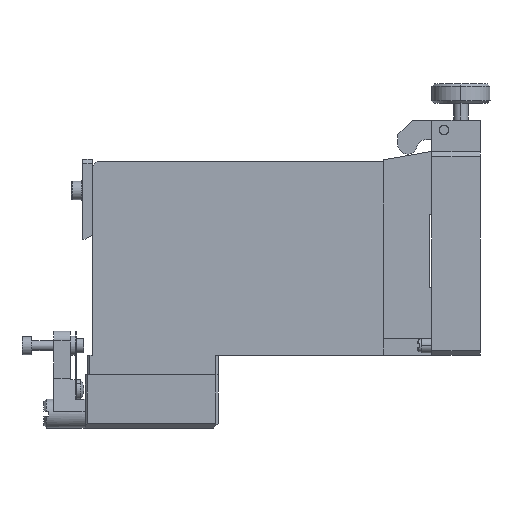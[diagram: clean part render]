
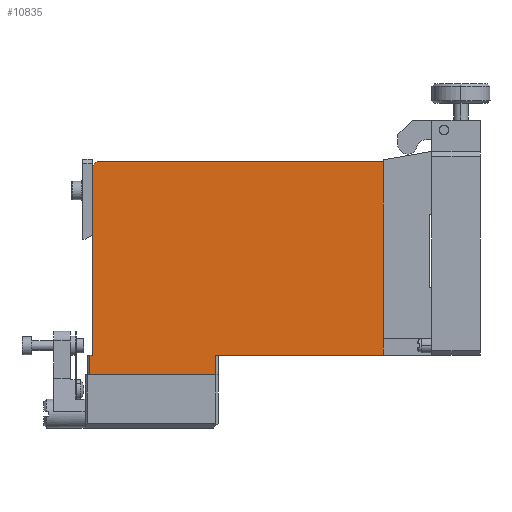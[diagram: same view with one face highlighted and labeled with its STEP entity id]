
A CAD part, left-side view. The second image highlights one B-rep face of the part: STEP entity #10835.
In plain terms, the highlighted planar face has unit normal (-1, 0, 0).
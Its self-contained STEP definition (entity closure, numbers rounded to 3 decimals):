
#168 = VERTEX_POINT ( 'NONE', #3923 ) ;
#234 = EDGE_CURVE ( 'NONE', #26488, #22378, #9065, .T. ) ;
#345 = DIRECTION ( 'NONE',  ( 0., 0., -1. ) ) ;
#522 = VECTOR ( 'NONE', #345, 1000. ) ;
#579 = VECTOR ( 'NONE', #24327, 1000. ) ;
#622 = DIRECTION ( 'NONE',  ( 0., 0., -1. ) ) ;
#818 = LINE ( 'NONE', #14189, #12302 ) ;
#899 = CARTESIAN_POINT ( 'NONE',  ( -30., 20., 8.25 ) ) ;
#953 = VECTOR ( 'NONE', #24574, 1000. ) ;
#1363 = ORIENTED_EDGE ( 'NONE', *, *, #20144, .F. ) ;
#1390 = VERTEX_POINT ( 'NONE', #16590 ) ;
#1466 = CARTESIAN_POINT ( 'NONE',  ( -30., 80.5, 0. ) ) ;
#1576 = CARTESIAN_POINT ( 'NONE',  ( -30., 80., 39. ) ) ;
#1665 = VERTEX_POINT ( 'NONE', #1466 ) ;
#1977 = VERTEX_POINT ( 'NONE', #16738 ) ;
#2141 = DIRECTION ( 'NONE',  ( 0., 0., -1. ) ) ;
#2174 = ORIENTED_EDGE ( 'NONE', *, *, #25929, .F. ) ;
#2393 = EDGE_CURVE ( 'NONE', #4316, #10573, #23772, .T. ) ;
#2987 = AXIS2_PLACEMENT_3D ( 'NONE', #14745, #5078, #22137 ) ;
#3067 = DIRECTION ( 'NONE',  ( 0., 0., -1. ) ) ;
#3177 = ORIENTED_EDGE ( 'NONE', *, *, #26612, .F. ) ;
#3424 = EDGE_CURVE ( 'NONE', #10573, #1977, #21587, .T. ) ;
#3594 = DIRECTION ( 'NONE',  ( 0., 0., -1. ) ) ;
#3638 = VECTOR ( 'NONE', #20350, 1000. ) ;
#3672 = LINE ( 'NONE', #12785, #8651 ) ;
#3923 = CARTESIAN_POINT ( 'NONE',  ( -30., 54.5, -4. ) ) ;
#4316 = VERTEX_POINT ( 'NONE', #899 ) ;
#4536 = CARTESIAN_POINT ( 'NONE',  ( -30., 20., 35.75 ) ) ;
#4729 = EDGE_CURVE ( 'NONE', #168, #11519, #10899, .T. ) ;
#5078 = DIRECTION ( 'NONE',  ( -1., 0., 0. ) ) ;
#5554 = LINE ( 'NONE', #19384, #953 ) ;
#5595 = VERTEX_POINT ( 'NONE', #8730 ) ;
#5882 = VECTOR ( 'NONE', #3067, 1000. ) ;
#6093 = EDGE_CURVE ( 'NONE', #14191, #19751, #30591, .T. ) ;
#6196 = VECTOR ( 'NONE', #29070, 1000. ) ;
#6938 = VECTOR ( 'NONE', #13520, 1000. ) ;
#7021 = LINE ( 'NONE', #4536, #522 ) ;
#7023 = EDGE_CURVE ( 'NONE', #22378, #18954, #30015, .T. ) ;
#8517 = CARTESIAN_POINT ( 'NONE',  ( -30., 20., 11.75 ) ) ;
#8545 = ORIENTED_EDGE ( 'NONE', *, *, #7023, .T. ) ;
#8651 = VECTOR ( 'NONE', #622, 1000. ) ;
#8710 = EDGE_LOOP ( 'NONE', ( #11714, #29944, #8545, #10982, #13305, #27796, #22763, #1363, #10665, #22348, #23706, #13450, #3177, #12855, #2174, #28555 ) ) ;
#8730 = CARTESIAN_POINT ( 'NONE',  ( -30., 20., 11.75 ) ) ;
#9065 = LINE ( 'NONE', #19170, #9440 ) ;
#9075 = VECTOR ( 'NONE', #2141, 1000. ) ;
#9139 = EDGE_CURVE ( 'NONE', #18954, #1665, #19926, .T. ) ;
#9440 = VECTOR ( 'NONE', #24377, 1000. ) ;
#10062 = CARTESIAN_POINT ( 'NONE',  ( -30., 20., 3.5 ) ) ;
#10152 = EDGE_CURVE ( 'NONE', #5595, #4316, #18673, .T. ) ;
#10573 = VERTEX_POINT ( 'NONE', #19916 ) ;
#10665 = ORIENTED_EDGE ( 'NONE', *, *, #3424, .F. ) ;
#10835 = ADVANCED_FACE ( 'NONE', ( #15063 ), #19564, .T. ) ;
#10899 = LINE ( 'NONE', #29001, #579 ) ;
#10904 = CARTESIAN_POINT ( 'NONE',  ( -30., 80., 0. ) ) ;
#10982 = ORIENTED_EDGE ( 'NONE', *, *, #9139, .T. ) ;
#11202 = EDGE_CURVE ( 'NONE', #168, #12060, #26918, .T. ) ;
#11233 = EDGE_CURVE ( 'NONE', #30279, #24030, #14310, .T. ) ;
#11519 = VERTEX_POINT ( 'NONE', #22045 ) ;
#11553 = CARTESIAN_POINT ( 'NONE',  ( -30., 20., 32.25 ) ) ;
#11714 = ORIENTED_EDGE ( 'NONE', *, *, #13689, .T. ) ;
#12060 = VERTEX_POINT ( 'NONE', #19877 ) ;
#12067 = CARTESIAN_POINT ( 'NONE',  ( -30., 20., 40. ) ) ;
#12302 = VECTOR ( 'NONE', #29002, 1000. ) ;
#12482 = DIRECTION ( 'NONE',  ( 0., 0., -1. ) ) ;
#12751 = LINE ( 'NONE', #12968, #5882 ) ;
#12785 = CARTESIAN_POINT ( 'NONE',  ( -30., 80.5, 0. ) ) ;
#12855 = ORIENTED_EDGE ( 'NONE', *, *, #11233, .F. ) ;
#12968 = CARTESIAN_POINT ( 'NONE',  ( -30., 20., 23.75 ) ) ;
#12977 = CARTESIAN_POINT ( 'NONE',  ( -30., 54.5, -4. ) ) ;
#13305 = ORIENTED_EDGE ( 'NONE', *, *, #24632, .T. ) ;
#13450 = ORIENTED_EDGE ( 'NONE', *, *, #25409, .F. ) ;
#13520 = DIRECTION ( 'NONE',  ( 0., 1., 0. ) ) ;
#13689 = EDGE_CURVE ( 'NONE', #14191, #26488, #17988, .T. ) ;
#14189 = CARTESIAN_POINT ( 'NONE',  ( -30., 20., 0. ) ) ;
#14191 = VERTEX_POINT ( 'NONE', #20265 ) ;
#14289 = CARTESIAN_POINT ( 'NONE',  ( -30., 80., 39. ) ) ;
#14310 = LINE ( 'NONE', #27384, #3638 ) ;
#14745 = CARTESIAN_POINT ( 'NONE',  ( -30., 13.95, -8.4 ) ) ;
#14984 = VECTOR ( 'NONE', #30065, 1000. ) ;
#15063 = FACE_OUTER_BOUND ( 'NONE', #8710, .T. ) ;
#15252 = CARTESIAN_POINT ( 'NONE',  ( -30., 20., 23.75 ) ) ;
#15563 = CARTESIAN_POINT ( 'NONE',  ( -30., 20., 8.25 ) ) ;
#15586 = DIRECTION ( 'NONE',  ( 0., 1., 0. ) ) ;
#16590 = CARTESIAN_POINT ( 'NONE',  ( -30., 20., 20.25 ) ) ;
#16738 = CARTESIAN_POINT ( 'NONE',  ( -30., 20., 0. ) ) ;
#17988 = LINE ( 'NONE', #20302, #27522 ) ;
#18673 = LINE ( 'NONE', #8517, #30099 ) ;
#18954 = VERTEX_POINT ( 'NONE', #10904 ) ;
#19170 = CARTESIAN_POINT ( 'NONE',  ( -30., 79., 40. ) ) ;
#19300 = CARTESIAN_POINT ( 'NONE',  ( -30., 79., 40. ) ) ;
#19384 = CARTESIAN_POINT ( 'NONE',  ( -30., 20., 20.25 ) ) ;
#19564 = PLANE ( 'NONE',  #2987 ) ;
#19751 = VERTEX_POINT ( 'NONE', #31383 ) ;
#19877 = CARTESIAN_POINT ( 'NONE',  ( -30., 54.5, 0. ) ) ;
#19916 = CARTESIAN_POINT ( 'NONE',  ( -30., 20., 3.5 ) ) ;
#19926 = LINE ( 'NONE', #28006, #6938 ) ;
#20144 = EDGE_CURVE ( 'NONE', #1977, #12060, #818, .T. ) ;
#20265 = CARTESIAN_POINT ( 'NONE',  ( -30., 20., 40. ) ) ;
#20302 = CARTESIAN_POINT ( 'NONE',  ( -30., 20., 40. ) ) ;
#20350 = DIRECTION ( 'NONE',  ( 0., 0., -1. ) ) ;
#21587 = LINE ( 'NONE', #10062, #29549 ) ;
#22045 = CARTESIAN_POINT ( 'NONE',  ( -30., 80.5, -4. ) ) ;
#22137 = DIRECTION ( 'NONE',  ( 0., 0., 1. ) ) ;
#22348 = ORIENTED_EDGE ( 'NONE', *, *, #2393, .F. ) ;
#22378 = VERTEX_POINT ( 'NONE', #1576 ) ;
#22763 = ORIENTED_EDGE ( 'NONE', *, *, #11202, .T. ) ;
#23706 = ORIENTED_EDGE ( 'NONE', *, *, #10152, .F. ) ;
#23772 = LINE ( 'NONE', #15563, #14984 ) ;
#24030 = VERTEX_POINT ( 'NONE', #15252 ) ;
#24327 = DIRECTION ( 'NONE',  ( 0., 1., 0. ) ) ;
#24377 = DIRECTION ( 'NONE',  ( 0., 0.707, -0.707 ) ) ;
#24574 = DIRECTION ( 'NONE',  ( 0., 0., -1. ) ) ;
#24632 = EDGE_CURVE ( 'NONE', #1665, #11519, #3672, .T. ) ;
#25030 = DIRECTION ( 'NONE',  ( 0., 0., 1. ) ) ;
#25409 = EDGE_CURVE ( 'NONE', #1390, #5595, #5554, .T. ) ;
#25929 = EDGE_CURVE ( 'NONE', #19751, #30279, #7021, .T. ) ;
#26488 = VERTEX_POINT ( 'NONE', #19300 ) ;
#26612 = EDGE_CURVE ( 'NONE', #24030, #1390, #12751, .T. ) ;
#26918 = LINE ( 'NONE', #12977, #31474 ) ;
#27384 = CARTESIAN_POINT ( 'NONE',  ( -30., 20., 32.25 ) ) ;
#27522 = VECTOR ( 'NONE', #15586, 1000. ) ;
#27796 = ORIENTED_EDGE ( 'NONE', *, *, #4729, .F. ) ;
#28006 = CARTESIAN_POINT ( 'NONE',  ( -30., 80., 0. ) ) ;
#28555 = ORIENTED_EDGE ( 'NONE', *, *, #6093, .F. ) ;
#29001 = CARTESIAN_POINT ( 'NONE',  ( -30., 54.5, -4. ) ) ;
#29002 = DIRECTION ( 'NONE',  ( 0., 1., 0. ) ) ;
#29070 = DIRECTION ( 'NONE',  ( 0., 0., -1. ) ) ;
#29549 = VECTOR ( 'NONE', #12482, 1000. ) ;
#29944 = ORIENTED_EDGE ( 'NONE', *, *, #234, .T. ) ;
#30015 = LINE ( 'NONE', #14289, #9075 ) ;
#30065 = DIRECTION ( 'NONE',  ( 0., 0., -1. ) ) ;
#30099 = VECTOR ( 'NONE', #3594, 1000. ) ;
#30279 = VERTEX_POINT ( 'NONE', #11553 ) ;
#30591 = LINE ( 'NONE', #12067, #6196 ) ;
#31383 = CARTESIAN_POINT ( 'NONE',  ( -30., 20., 35.75 ) ) ;
#31474 = VECTOR ( 'NONE', #25030, 1000. ) ;
